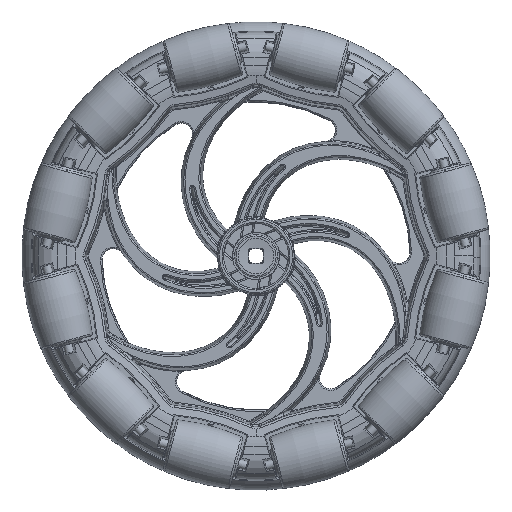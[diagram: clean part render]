
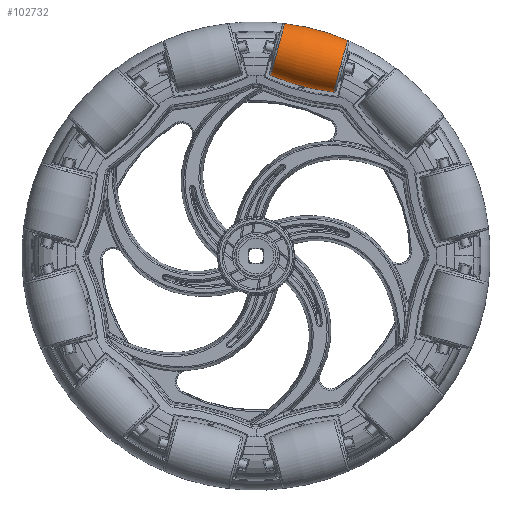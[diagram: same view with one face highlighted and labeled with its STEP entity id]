
A CAD part, front view. The second image highlights one B-rep face of the part: STEP entity #102732.
In plain terms, the highlighted toroidal (fillet/blend) face has major radius 43.388 mm and minor radius 50 mm.
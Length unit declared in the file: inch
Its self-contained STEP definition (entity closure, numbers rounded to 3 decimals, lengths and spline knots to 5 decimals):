
#12951 = VERTEX_POINT ( 'NONE', #112920 ) ;
#13025 = EDGE_CURVE ( 'NONE', #12951, #13104, #113032, .T. ) ;
#13083 = EDGE_CURVE ( 'NONE', #13277, #13134, #113144, .T. ) ;
#13104 = VERTEX_POINT ( 'NONE', #113225 ) ;
#13134 = VERTEX_POINT ( 'NONE', #113257 ) ;
#13234 = VERTEX_POINT ( 'NONE', #113428 ) ;
#13246 = EDGE_CURVE ( 'NONE', #13268, #13234, #113420, .T. ) ;
#13259 = EDGE_CURVE ( 'NONE', #13277, #13104, #113457, .T. ) ;
#13268 = VERTEX_POINT ( 'NONE', #113446 ) ;
#13277 = VERTEX_POINT ( 'NONE', #113484 ) ;
#79310 = AXIS2_PLACEMENT_3D ( 'NONE', #79397, #79396, #79395 ) ;
#79311 = FACE_OUTER_BOUND ( 'NONE', #102820, .T. ) ;
#79334 = TOROIDAL_SURFACE ( 'NONE', #79310, -1.70818, 1.9685 ) ;
#79395 = DIRECTION ( 'NONE',  ( 0., 0., -1. ) ) ;
#79396 = DIRECTION ( 'NONE',  ( 1., 0., 0. ) ) ;
#79397 = CARTESIAN_POINT ( 'NONE',  ( 0., 0., 0. ) ) ;
#79508 = DIRECTION ( 'NONE',  ( 0., 1., 0. ) ) ;
#79509 = DIRECTION ( 'NONE',  ( 1., 0., 0. ) ) ;
#79510 = CARTESIAN_POINT ( 'NONE',  ( -0.2903, 0., 0. ) ) ;
#79511 = AXIS2_PLACEMENT_3D ( 'NONE', #79510, #79509, #79508 ) ;
#79512 = CIRCLE ( 'NONE', #79511, 0.2388 ) ;
#82985 = DIRECTION ( 'NONE',  ( 0., -1., 0. ) ) ;
#82986 = DIRECTION ( 'NONE',  ( -1., 0., 0. ) ) ;
#82987 = AXIS2_PLACEMENT_3D ( 'NONE', #82994, #82986, #82985 ) ;
#82988 = CIRCLE ( 'NONE', #82987, 0.2388 ) ;
#82994 = CARTESIAN_POINT ( 'NONE',  ( 0.2903, 0., 0. ) ) ;
#102652 = ORIENTED_EDGE ( 'NONE', *, *, #13246, .T. ) ;
#102654 = ORIENTED_EDGE ( 'NONE', *, *, #104079, .T. ) ;
#102718 = ORIENTED_EDGE ( 'NONE', *, *, #13259, .F. ) ;
#102732 = ADVANCED_FACE ( 'NONE', ( #79311 ), #79334, .T. ) ;
#102788 = EDGE_CURVE ( 'NONE', #13134, #13268, #79512, .T. ) ;
#102804 = ORIENTED_EDGE ( 'NONE', *, *, #13083, .T. ) ;
#102805 = ORIENTED_EDGE ( 'NONE', *, *, #102788, .T. ) ;
#102820 = EDGE_LOOP ( 'NONE', ( #102718, #102804, #102805, #102652, #102654, #102858 ) ) ;
#102858 = ORIENTED_EDGE ( 'NONE', *, *, #13025, .T. ) ;
#104079 = EDGE_CURVE ( 'NONE', #13234, #12951, #82988, .T. ) ;
#112920 = CARTESIAN_POINT ( 'NONE',  ( 0.2903, -0.23878, -0.00284 ) ) ;
#113028 = DIRECTION ( 'NONE',  ( 0., -1., 0. ) ) ;
#113029 = DIRECTION ( 'NONE',  ( -1., 0., 0. ) ) ;
#113030 = CARTESIAN_POINT ( 'NONE',  ( 0.2903, 0., 0. ) ) ;
#113031 = AXIS2_PLACEMENT_3D ( 'NONE', #113030, #113029, #113028 ) ;
#113032 = CIRCLE ( 'NONE', #113031, 0.2388 ) ;
#113140 = DIRECTION ( 'NONE',  ( 0., 1., 0. ) ) ;
#113141 = DIRECTION ( 'NONE',  ( 1., 0., 0. ) ) ;
#113142 = CARTESIAN_POINT ( 'NONE',  ( -0.2903, 0., 0. ) ) ;
#113143 = AXIS2_PLACEMENT_3D ( 'NONE', #113142, #113141, #113140 ) ;
#113144 = CIRCLE ( 'NONE', #113143, 0.2388 ) ;
#113225 = CARTESIAN_POINT ( 'NONE',  ( 0.2903, 0., 0.2388 ) ) ;
#113257 = CARTESIAN_POINT ( 'NONE',  ( -0.2903, -0.23876, -0.00419 ) ) ;
#113417 = DIRECTION ( 'NONE',  ( 0., 0., -1. ) ) ;
#113418 = DIRECTION ( 'NONE',  ( 0., -1., 0. ) ) ;
#113419 = AXIS2_PLACEMENT_3D ( 'NONE', #113425, #113418, #113417 ) ;
#113420 = CIRCLE ( 'NONE', #113419, 1.9685 ) ;
#113425 = CARTESIAN_POINT ( 'NONE',  ( 0., 0., 1.70818 ) ) ;
#113428 = CARTESIAN_POINT ( 'NONE',  ( 0.2903, 0., -0.2388 ) ) ;
#113446 = CARTESIAN_POINT ( 'NONE',  ( -0.2903, 0., -0.2388 ) ) ;
#113453 = DIRECTION ( 'NONE',  ( 0., 0., 1. ) ) ;
#113454 = DIRECTION ( 'NONE',  ( 0., 1., 0. ) ) ;
#113455 = CARTESIAN_POINT ( 'NONE',  ( 0., 0., -1.70818 ) ) ;
#113456 = AXIS2_PLACEMENT_3D ( 'NONE', #113455, #113454, #113453 ) ;
#113457 = CIRCLE ( 'NONE', #113456, 1.9685 ) ;
#113484 = CARTESIAN_POINT ( 'NONE',  ( -0.2903, 0., 0.2388 ) ) ;
